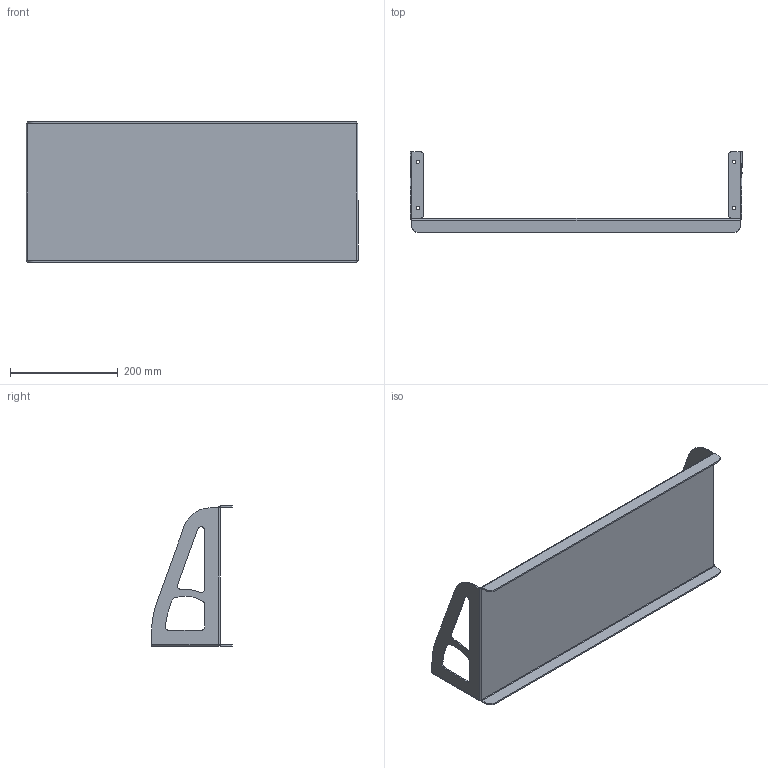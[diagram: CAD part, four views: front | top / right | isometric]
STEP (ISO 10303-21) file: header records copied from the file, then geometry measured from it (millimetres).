
FILE_DESCRIPTION (( 'STEP AP203' ), '1' );
FILE_NAME ('GueriTech_Upper_Bracket_Shelf.STEP', '2023-11-16T14:16:52', ( '' ), ( '' ), 'SwSTEP 2.0', 'SolidWorks 2020', '' );
FILE_SCHEMA (( 'CONFIG_CONTROL_DESIGN' ));
Length unit declared in the file: inch
Products named in the file (1): GueriTech_Upper_Bracket_Shelf
Bounding box: 614.91 x 149.74 x 259.31 mm (x, y, z)
Volume: 593605.4 mm3; surface area: 455939.5 mm2
Topology: 1 solids, 1 shells, 114 faces, 288 edges, 176 vertices
Faces by surface type: plane 58, cylinder 56
Entity records: 3511 total; most frequent: DIRECTION 630, CARTESIAN_POINT 579, ORIENTED_EDGE 576, EDGE_CURVE 288, AXIS2_PLACEMENT_3D 227, VECTOR 176, VERTEX_POINT 176, LINE 176
